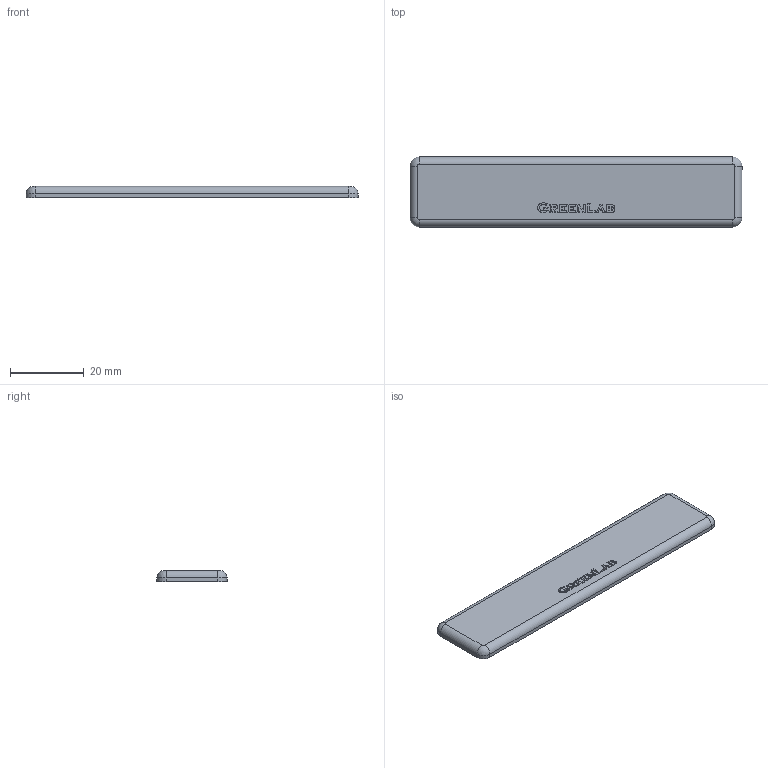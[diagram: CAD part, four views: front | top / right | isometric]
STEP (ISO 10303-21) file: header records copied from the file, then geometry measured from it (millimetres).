
FILE_DESCRIPTION (( 'STEP AP214' ), '1' );
FILE_NAME ('1.1060 Päätysuoja 19X90 musta.STEP', '2025-09-03T09:00:07', ( '' ), ( '' ), 'SwSTEP 2.0', 'SolidWorks 2025', '' );
FILE_SCHEMA (( 'AUTOMOTIVE_DESIGN' ));
Length unit declared in the file: millimetre
Products named in the file (1): 1.1060 Päätysuoja 19X90 musta
Bounding box: 90 x 19 x 3 mm (x, y, z)
Volume: 4922.1 mm3; surface area: 3918.9 mm2
Topology: 1 solids, 1 shells, 240 faces, 670 edges, 444 vertices
Faces by surface type: plane 143, bspline 85, cylinder 8, torus 4
Entity records: 10295 total; most frequent: CARTESIAN_POINT 4672, ORIENTED_EDGE 1340, DIRECTION 832, EDGE_CURVE 670, VECTOR 480, LINE 480, VERTEX_POINT 444, EDGE_LOOP 252
